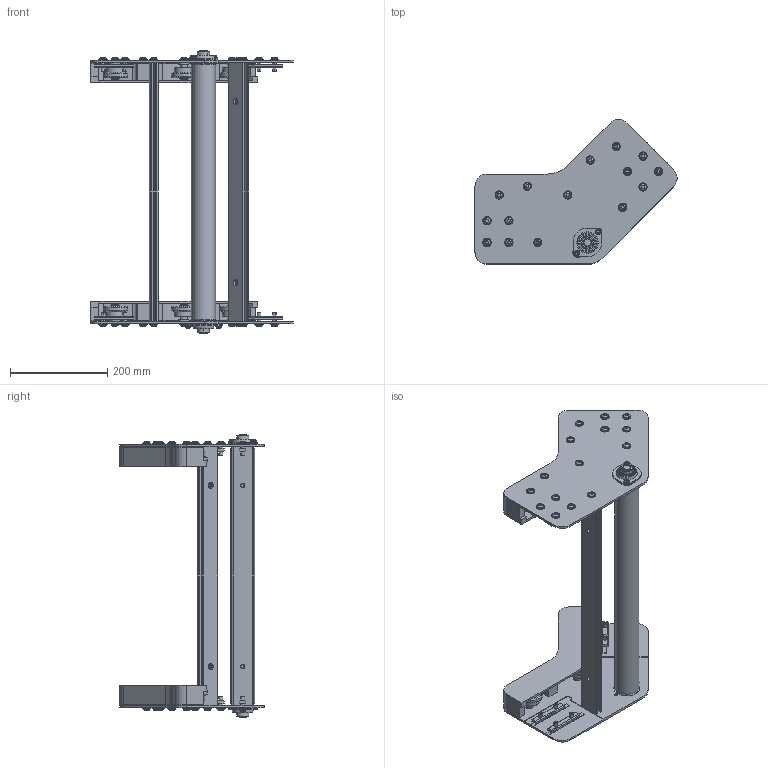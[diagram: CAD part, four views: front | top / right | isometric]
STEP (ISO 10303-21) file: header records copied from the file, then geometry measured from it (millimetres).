
FILE_DESCRIPTION (( 'STEP AP203' ), '1' );
FILE_NAME ('084.095.KA.45.500.STEP', '2019-07-30T08:36:04', ( '' ), ( '' ), 'SwSTEP 2.0', 'SolidWorks 2018', '' );
FILE_SCHEMA (( 'CONFIG_CONTROL_DESIGN' ));
Length unit declared in the file: millimetre
Products named in the file (17): 084.821.122; 084.821.103; 084.095.KA.45.500; VITI TESTA BOMBATA ISO 730 INOX_M8x25 ISO 7380 INOX; 084.821.124_Default<A macchina>; 084.101.004_KA.45.500_Default<A macchina>; 084.821.105; RONDELLE UNI 6592_8.4x17 UNI 6592; 084.811.004; CUSCINETTI A SFERE_6002-2Z; RONDELLE UNI 6592_6.4x12.5 UNI 6592; 084.821.102; SBPFL 203; Circlip DIN 471 - 15 x 1_Circlip DIN 471 - 15 x 1; VITI TESTA BOMBATA ISO 730 INOX_M6x10 ISO 7380 INOX; 084.821.123; 084.302.016
Assembly tree (129 placements, depth 2):
  084.095.KA.45.500
    084.821.124_Default<A macchina>
    084.101.004_KA.45.500_Default<A macchina>  x2
    084.821.122  x2
    084.821.123  x2
    084.821.103  x6
    084.821.105  x6
    084.821.102  x6
    084.302.016  x8
    084.811.004  x2
    CUSCINETTI A SFERE_6002-2Z  x12
    SBPFL 203  x2
    Circlip DIN 471 - 15 x 1_Circlip DIN 471 - 15 x 1  x12
    VITI TESTA BOMBATA ISO 730 INOX_M8x25 ISO 7380 INOX  x30
    RONDELLE UNI 6592_8.4x17 UNI 6592  x30
    VITI TESTA BOMBATA ISO 730 INOX_M6x10 ISO 7380 INOX  x4
    RONDELLE UNI 6592_6.4x12.5 UNI 6592  x4
Bounding box: 416.33 x 297.14 x 581 mm (x, y, z)
Volume: 2589379.9 mm3; surface area: 1217281.8 mm2
Topology: 133 solids, 133 shells, 2491 faces, 5873 edges, 3800 vertices
Faces by surface type: plane 1056, cylinder 1011, cone 208, torus 196, sphere 20
Entity records: 22691 total; most frequent: DIRECTION 3356, CARTESIAN_POINT 3298, ORIENTED_EDGE 2832, EDGE_CURVE 1416, AXIS2_PLACEMENT_3D 1282, VERTEX_POINT 928, VECTOR 792, LINE 792
